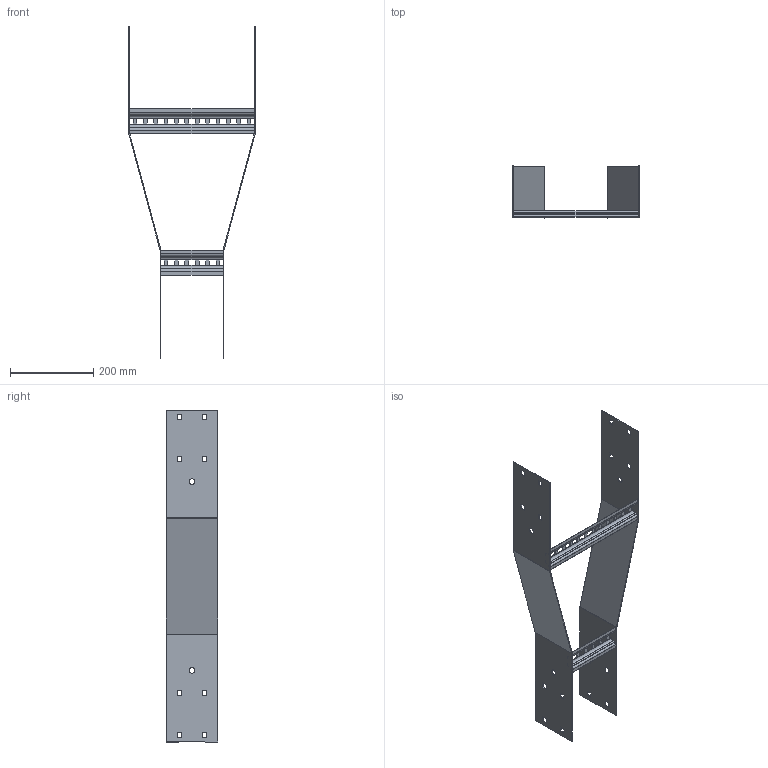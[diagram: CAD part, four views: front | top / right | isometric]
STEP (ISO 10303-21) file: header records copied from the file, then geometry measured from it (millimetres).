
FILE_DESCRIPTION (( 'STEP AP203' ), '1' );
FILE_NAME ('N3 SR 300150.STEP', '2024-04-18T00:31:13', ( '' ), ( '' ), 'SwSTEP 2.0', 'SolidWorks 2023', '' );
FILE_SCHEMA (( 'CONFIG_CONTROL_DESIGN' ));
Length unit declared in the file: millimetre
Products named in the file (4): N3 SR 300150; N3 Reducer side plate_SR150x300; Ladder Rung_Ladder Rung -  300mm; Ladder Rung_Ladder Rung -  150mm
Assembly tree (4 placements, depth 2):
  N3 SR 300150
    N3 Reducer side plate_SR150x300  x2
    Ladder Rung_Ladder Rung -  150mm
    Ladder Rung_Ladder Rung -  300mm
Bounding box: 304 x 124 x 800 mm (x, y, z)
Volume: 443894.2 mm3; surface area: 468762.6 mm2
Topology: 4 solids, 4 shells, 272 faces, 696 edges, 432 vertices
Faces by surface type: plane 240, cylinder 32
Entity records: 6806 total; most frequent: CARTESIAN_POINT 1101, ORIENTED_EDGE 1088, DIRECTION 1034, EDGE_CURVE 544, VECTOR 496, LINE 496, VERTEX_POINT 336, AXIS2_PLACEMENT_3D 269
